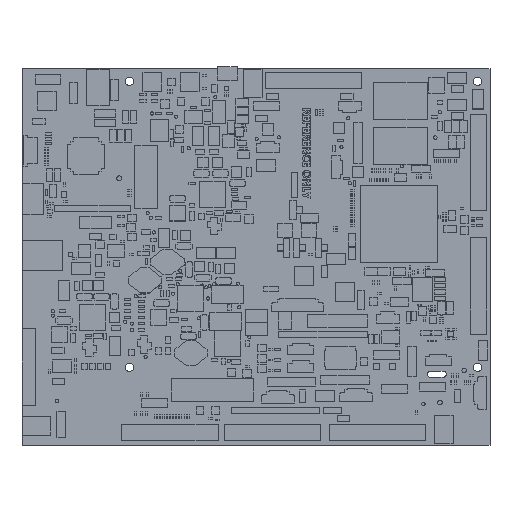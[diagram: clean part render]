
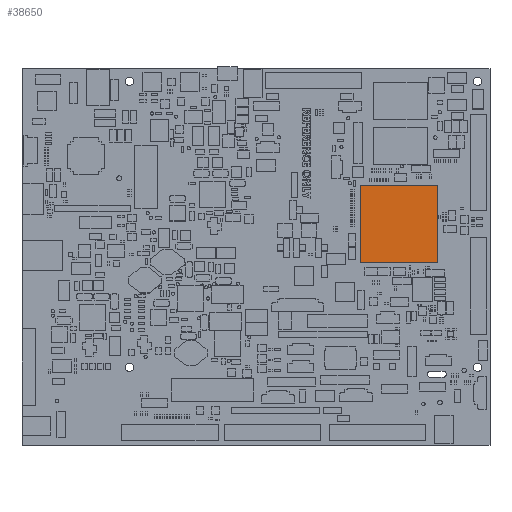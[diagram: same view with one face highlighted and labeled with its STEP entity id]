
A CAD part, top view. The second image highlights one B-rep face of the part: STEP entity #38650.
In plain terms, the highlighted planar face has unit normal (0, 0, 1).
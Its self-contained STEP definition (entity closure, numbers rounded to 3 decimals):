
#8598 = CARTESIAN_POINT ( 'NONE',  ( 0., 0., 2.4 ) ) ;
#12941 = VERTEX_POINT ( 'NONE', #44672 ) ;
#14062 = ORIENTED_EDGE ( 'NONE', *, *, #14886, .T. ) ;
#14376 = VECTOR ( 'NONE', #20885, 1000. ) ;
#14886 = EDGE_CURVE ( 'NONE', #72594, #28240, #94558, .T. ) ;
#20885 = DIRECTION ( 'NONE',  ( 0., -1., 0. ) ) ;
#22111 = DIRECTION ( 'NONE',  ( 0., 1., 0. ) ) ;
#26586 = DIRECTION ( 'NONE',  ( -1., 0., 0. ) ) ;
#27351 = DIRECTION ( 'NONE',  ( -1., 0., 0. ) ) ;
#28240 = VERTEX_POINT ( 'NONE', #76397 ) ;
#28753 = LINE ( 'NONE', #71036, #14376 ) ;
#31586 = ORIENTED_EDGE ( 'NONE', *, *, #89704, .T. ) ;
#32735 = LINE ( 'NONE', #64928, #86846 ) ;
#33487 = DIRECTION ( 'NONE',  ( 0., 0., -1. ) ) ;
#34155 = CARTESIAN_POINT ( 'NONE',  ( -15.5, -15.5, 2.4 ) ) ;
#35330 = LINE ( 'NONE', #67513, #73417 ) ;
#38650 = ADVANCED_FACE ( 'NONE', ( #49274 ), #99580, .F. ) ;
#44672 = CARTESIAN_POINT ( 'NONE',  ( -15.5, 15.5, 2.4 ) ) ;
#46843 = VECTOR ( 'NONE', #22111, 1000. ) ;
#47287 = EDGE_LOOP ( 'NONE', ( #31586, #14062, #100008, #94051 ) ) ;
#49274 = FACE_OUTER_BOUND ( 'NONE', #47287, .T. ) ;
#64928 = CARTESIAN_POINT ( 'NONE',  ( 15.5, -15.5, 2.4 ) ) ;
#65310 = CARTESIAN_POINT ( 'NONE',  ( 15.5, -15.5, 2.4 ) ) ;
#67513 = CARTESIAN_POINT ( 'NONE',  ( -15.5, 15.5, 2.4 ) ) ;
#71036 = CARTESIAN_POINT ( 'NONE',  ( -15.5, -15.5, 2.4 ) ) ;
#72594 = VERTEX_POINT ( 'NONE', #65310 ) ;
#72883 = DIRECTION ( 'NONE',  ( 1., 0., 0. ) ) ;
#73417 = VECTOR ( 'NONE', #27351, 1000. ) ;
#74128 = VERTEX_POINT ( 'NONE', #34155 ) ;
#74249 = EDGE_CURVE ( 'NONE', #12941, #74128, #28753, .T. ) ;
#76397 = CARTESIAN_POINT ( 'NONE',  ( 15.5, 15.5, 2.4 ) ) ;
#86846 = VECTOR ( 'NONE', #72883, 1000. ) ;
#89704 = EDGE_CURVE ( 'NONE', #74128, #72594, #32735, .T. ) ;
#89927 = EDGE_CURVE ( 'NONE', #28240, #12941, #35330, .T. ) ;
#94008 = CARTESIAN_POINT ( 'NONE',  ( 15.5, 15.5, 2.4 ) ) ;
#94051 = ORIENTED_EDGE ( 'NONE', *, *, #74249, .T. ) ;
#94558 = LINE ( 'NONE', #94008, #46843 ) ;
#98004 = AXIS2_PLACEMENT_3D ( 'NONE', #8598, #33487, #26586 ) ;
#99580 = PLANE ( 'NONE',  #98004 ) ;
#100008 = ORIENTED_EDGE ( 'NONE', *, *, #89927, .T. ) ;
